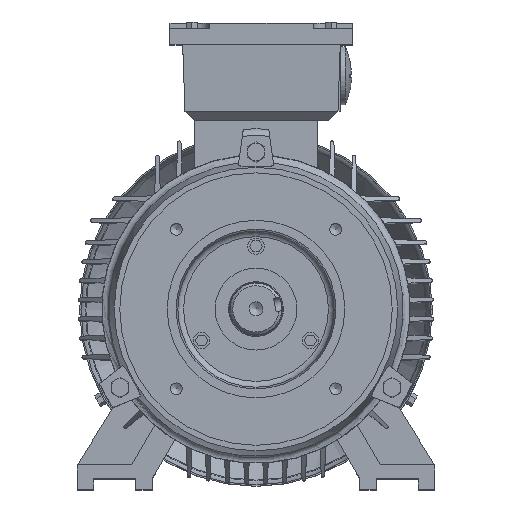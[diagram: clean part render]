
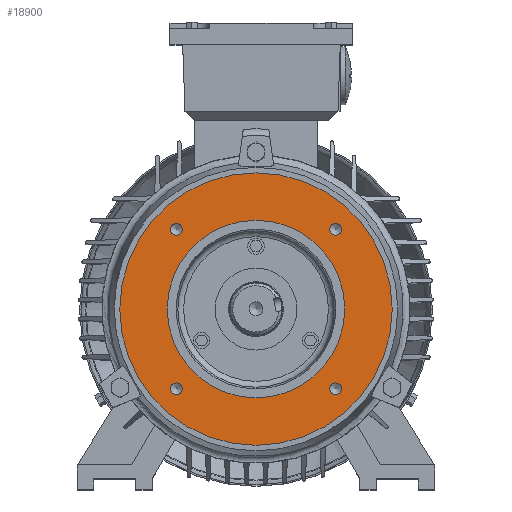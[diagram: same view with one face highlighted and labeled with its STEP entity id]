
A CAD part, top view. The second image highlights one B-rep face of the part: STEP entity #18900.
In plain terms, the highlighted planar face has unit normal (0, 0, 1) as drawn and (-1, 0, 0) by its records, which use the part's own axes.
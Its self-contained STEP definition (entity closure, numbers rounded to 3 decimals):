
#313=FACE_BOUND('',#3181,.T.);
#314=FACE_BOUND('',#3182,.T.);
#315=FACE_BOUND('',#3183,.T.);
#316=FACE_BOUND('',#3184,.T.);
#317=FACE_BOUND('',#3185,.T.);
#965=PLANE('',#20225);
#2013=FACE_OUTER_BOUND('',#3180,.T.);
#3180=EDGE_LOOP('',(#14838));
#3181=EDGE_LOOP('',(#14839));
#3182=EDGE_LOOP('',(#14840));
#3183=EDGE_LOOP('',(#14841));
#3184=EDGE_LOOP('',(#14842));
#3185=EDGE_LOOP('',(#14843));
#8326=CIRCLE('',#20120,4.25);
#8328=CIRCLE('',#20124,4.25);
#8330=CIRCLE('',#20128,4.25);
#8332=CIRCLE('',#20132,4.25);
#8357=CIRCLE('',#20171,65.);
#8358=CIRCLE('',#20173,99.75);
#9015=VERTEX_POINT('',#46196);
#9018=VERTEX_POINT('',#46205);
#9021=VERTEX_POINT('',#46214);
#9024=VERTEX_POINT('',#46223);
#9049=VERTEX_POINT('',#46300);
#9050=VERTEX_POINT('',#46304);
#11081=EDGE_CURVE('',#9015,#9015,#8326,.T.);
#11085=EDGE_CURVE('',#9018,#9018,#8328,.T.);
#11089=EDGE_CURVE('',#9021,#9021,#8330,.T.);
#11093=EDGE_CURVE('',#9024,#9024,#8332,.T.);
#11131=EDGE_CURVE('',#9049,#9049,#8357,.T.);
#11132=EDGE_CURVE('',#9050,#9050,#8358,.T.);
#14838=ORIENTED_EDGE('',*,*,#11132,.T.);
#14839=ORIENTED_EDGE('',*,*,#11081,.F.);
#14840=ORIENTED_EDGE('',*,*,#11085,.F.);
#14841=ORIENTED_EDGE('',*,*,#11089,.F.);
#14842=ORIENTED_EDGE('',*,*,#11093,.F.);
#14843=ORIENTED_EDGE('',*,*,#11131,.F.);
#18900=ADVANCED_FACE('',(#2013,#313,#314,#315,#316,#317),#965,.F.);
#20120=AXIS2_PLACEMENT_3D('',#46198,#22214,#22215);
#20124=AXIS2_PLACEMENT_3D('',#46207,#22224,#22225);
#20128=AXIS2_PLACEMENT_3D('',#46216,#22234,#22235);
#20132=AXIS2_PLACEMENT_3D('',#46225,#22244,#22245);
#20171=AXIS2_PLACEMENT_3D('',#46302,#22335,#22336);
#20173=AXIS2_PLACEMENT_3D('',#46305,#22339,#22340);
#20225=AXIS2_PLACEMENT_3D('',#46722,#22504,#22505);
#22214=DIRECTION('center_axis',(-1.,0.,0.));
#22215=DIRECTION('ref_axis',(0.,0.,1.));
#22224=DIRECTION('center_axis',(-1.,0.,0.));
#22225=DIRECTION('ref_axis',(0.,0.,1.));
#22234=DIRECTION('center_axis',(-1.,0.,0.));
#22235=DIRECTION('ref_axis',(0.,0.,1.));
#22244=DIRECTION('center_axis',(-1.,0.,0.));
#22245=DIRECTION('ref_axis',(0.,0.,1.));
#22335=DIRECTION('center_axis',(-1.,0.,0.));
#22336=DIRECTION('ref_axis',(0.,0.,1.));
#22339=DIRECTION('center_axis',(-1.,0.,0.));
#22340=DIRECTION('ref_axis',(0.,0.,1.));
#22504=DIRECTION('center_axis',(1.,0.,0.));
#22505=DIRECTION('ref_axis',(0.,0.,-1.));
#46196=CARTESIAN_POINT('',(-8.,58.336,54.086));
#46198=CARTESIAN_POINT('Origin',(-8.,58.336,58.336));
#46205=CARTESIAN_POINT('',(-8.,-58.336,54.086));
#46207=CARTESIAN_POINT('Origin',(-8.,-58.336,58.336));
#46214=CARTESIAN_POINT('',(-8.,-58.336,-62.586));
#46216=CARTESIAN_POINT('Origin',(-8.,-58.336,-58.336));
#46223=CARTESIAN_POINT('',(-8.,58.336,-62.586));
#46225=CARTESIAN_POINT('Origin',(-8.,58.336,-58.336));
#46300=CARTESIAN_POINT('',(-8.,0.,-65.));
#46302=CARTESIAN_POINT('Origin',(-8.,0.,0.));
#46304=CARTESIAN_POINT('',(-8.,0.,-99.75));
#46305=CARTESIAN_POINT('Origin',(-8.,0.,0.));
#46722=CARTESIAN_POINT('Origin',(-8.,65.,0.));
